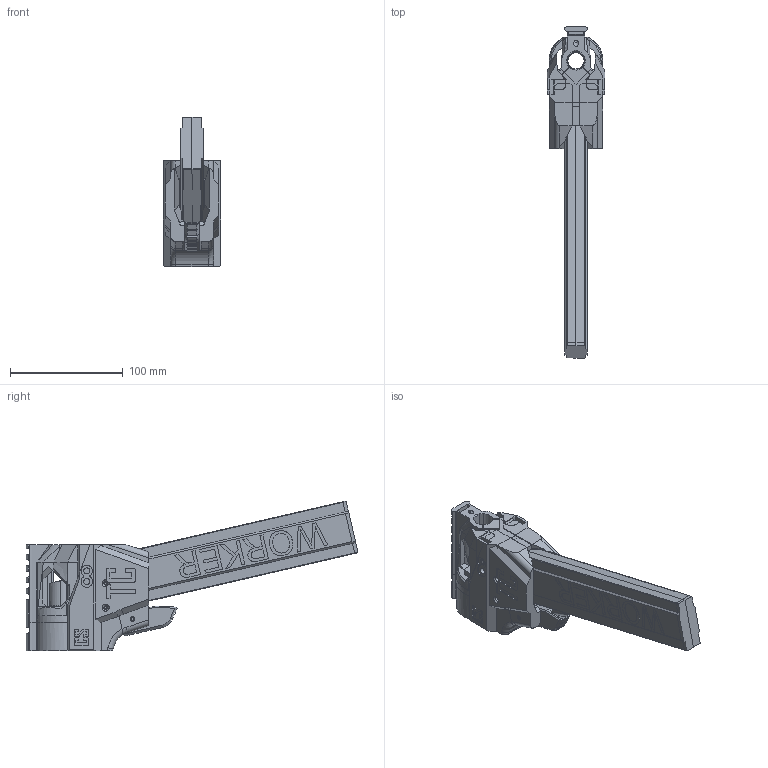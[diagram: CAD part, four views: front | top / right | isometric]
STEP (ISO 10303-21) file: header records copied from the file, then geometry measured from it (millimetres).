
FILE_DESCRIPTION(/* description */ ('Alibre Inc.'),/* implementation_level */ '2;1');
FILE_NAME(/* name */ 'export-0F56619D-77F7-40ED-974C-287B6EB5B7E2',/* time_stamp */ '2021-12-05T21:07:57-05:00',/* author */ (''),/* organization */ (''),/* preprocessor_version */ 'ST-DEVELOPER v17',/* originating_system */ 'Alibre',/* authorisation */ '');
FILE_SCHEMA (('AUTOMOTIVE_DESIGN'));
Length unit declared in the file: millimetre
Bounding box: 50.8 x 293.84 x 132.72 mm (x, y, z)
Volume: 329576 mm3; surface area: 145494.1 mm2
Topology: 5 solids, 5 shells, 1201 faces, 3434 edges, 2263 vertices
Faces by surface type: plane 852, bspline 194, cylinder 128, cone 23, torus 4
Full cylindrical faces by diameter (mm): 2.413 x7, 3.81 x4, 4.572 x1, 5.334 x9, 10.16 x1, 14.287 x1
Entity records: 42618 total; most frequent: CARTESIAN_POINT 14354, ORIENTED_EDGE 6760, DIRECTION 4062, EDGE_CURVE 3380, VECTOR 2361, LINE 2361, VERTEX_POINT 2244, EDGE_LOOP 1308
